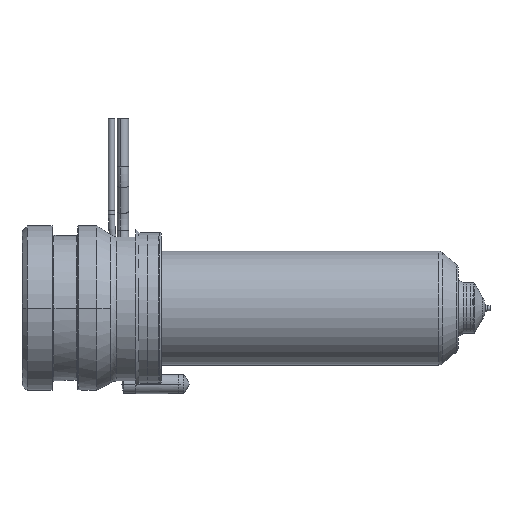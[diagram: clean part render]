
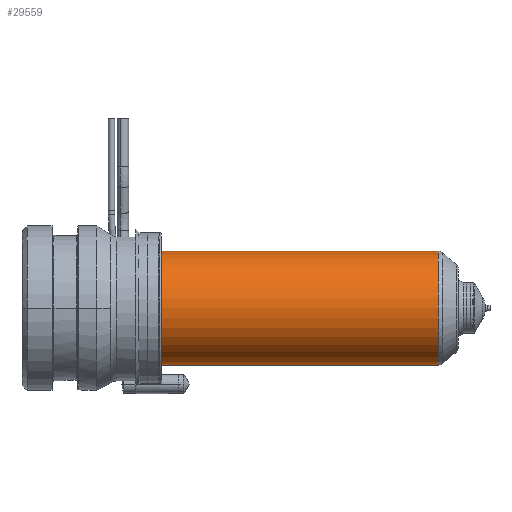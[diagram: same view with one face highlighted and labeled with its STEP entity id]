
A CAD part, left-side view. The second image highlights one B-rep face of the part: STEP entity #29559.
In plain terms, the highlighted cylindrical face has radius 9 mm (diameter 18 mm), a partial arc.
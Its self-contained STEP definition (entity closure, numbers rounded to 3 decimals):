
#28942=CARTESIAN_POINT('',(0.,-65.836,0.));
#28943=DIRECTION('',(0.,-1.,0.));
#28944=DIRECTION('',(0.,0.,1.));
#28945=AXIS2_PLACEMENT_3D('',#28942,#28943,#28944);
#28950=CARTESIAN_POINT('',(0.,-22.,0.));
#28951=DIRECTION('',(0.,-1.,0.));
#28952=DIRECTION('',(0.,0.,1.));
#28953=AXIS2_PLACEMENT_3D('',#28950,#28951,#28952);
#28958=DIRECTION('',(0.,-1.,0.));
#28959=VECTOR('',#28958,43.836);
#28960=CARTESIAN_POINT('',(0.,-22.,9.));
#28961=LINE('',#28960,#28959);
#28973=DIRECTION('',(0.,-1.,0.));
#28974=VECTOR('',#28973,43.836);
#28975=CARTESIAN_POINT('',(0.,-22.,-9.));
#28976=LINE('',#28975,#28974);
#29176=CARTESIAN_POINT('',(0.,-22.,9.));
#29177=CARTESIAN_POINT('',(0.,-65.836,9.));
#29178=VERTEX_POINT('',#29176);
#29179=VERTEX_POINT('',#29177);
#29202=CARTESIAN_POINT('',(0.,-22.,-9.));
#29203=CARTESIAN_POINT('',(0.,-65.836,-9.));
#29204=VERTEX_POINT('',#29202);
#29205=VERTEX_POINT('',#29203);
#29545=CARTESIAN_POINT('',(0.,-15.2,0.));
#29546=DIRECTION('',(0.,-1.,0.));
#29547=DIRECTION('',(0.,0.,1.));
#29548=AXIS2_PLACEMENT_3D('',#29545,#29546,#29547);
#29549=CYLINDRICAL_SURFACE('',#29548,9.);
#29551=ORIENTED_EDGE('',*,*,#29550,.T.);
#29552=ORIENTED_EDGE('',*,*,#29540,.T.);
#29554=ORIENTED_EDGE('',*,*,#29553,.F.);
#29556=ORIENTED_EDGE('',*,*,#29555,.F.);
#29557=EDGE_LOOP('',(#29551,#29552,#29554,#29556));
#29558=FACE_OUTER_BOUND('',#29557,.F.);
#29559=ADVANCED_FACE('',(#29558),#29549,.T.);
#28946=CIRCLE('',#28945,9.);
#28954=CIRCLE('',#28953,9.);
#29540=EDGE_CURVE('',#29179,#29205,#28946,.T.);
#29550=EDGE_CURVE('',#29178,#29179,#28961,.T.);
#29553=EDGE_CURVE('',#29204,#29205,#28976,.T.);
#29555=EDGE_CURVE('',#29178,#29204,#28954,.T.);
